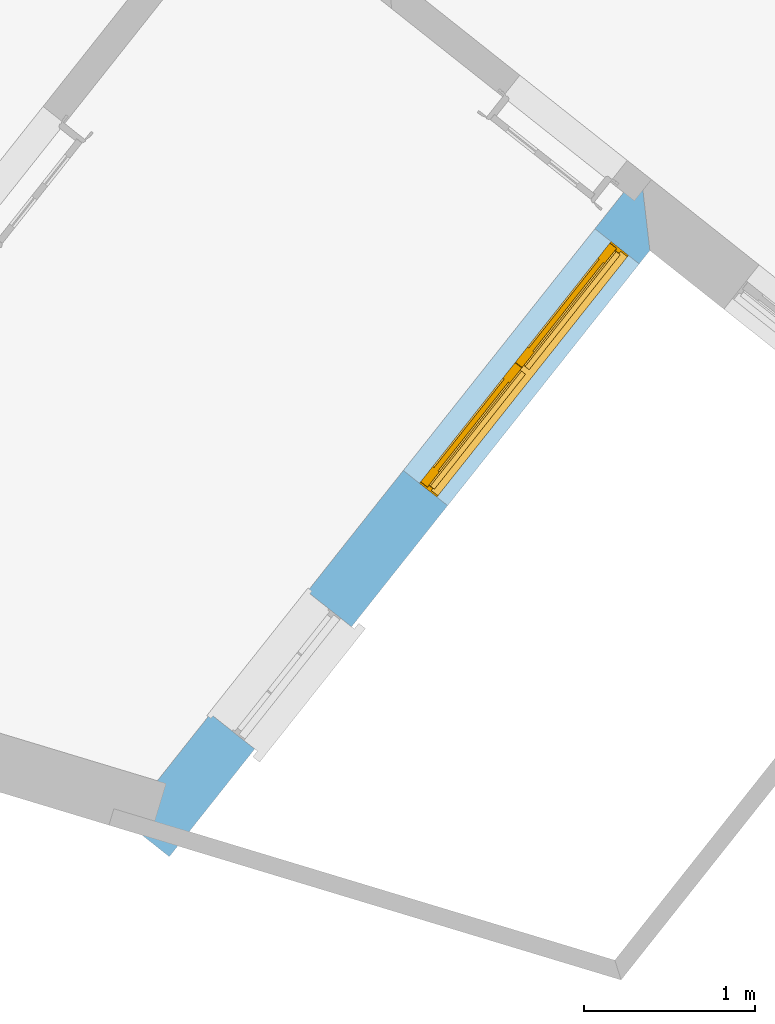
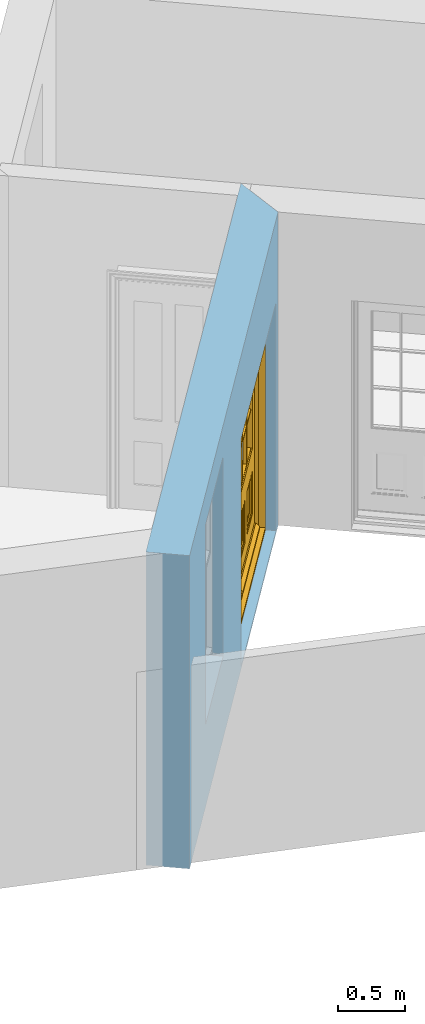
# One storey, part 3 of 8: 1 door, 2 openings, plus 1 element that does not belong to this part.
"""IFC4 building model written with IfcOpenShell, lengths in metres."""

from ifc_helpers import new_model, si_unit, frame, origin, origin_with_axes, place, context, subcontext, project, spatial, polyline, outline, extrude, faceted_brep, source, transform, mapped, material, layer, layer_set, layer_usage, type_object, type_shapes, element, fill, save


model = new_model("IFC4")

# Units and contexts
model_context = context("Model", 3, world=origin_with_axes())
body_context = subcontext(model_context, "Body", "Model", "MODEL_VIEW")
ifc_project = project(units=[si_unit("PLANEANGLEUNIT", "RADIAN"), si_unit("MASSUNIT", "GRAM", prefix="KILO"), si_unit("FORCEUNIT", "NEWTON", prefix="KILO"), si_unit("LENGTHUNIT", "METRE"), si_unit("AREAUNIT", "SQUARE_METRE"), si_unit("VOLUMEUNIT", "CUBIC_METRE")], contexts=[model_context, model_context])

# Sites, building, storey
site_1_placement = place(None, origin_with_axes())
site_1 = spatial("IfcSite", under=ifc_project, at=site_1_placement, Name="Tamar")
site_2_placement = place(site_1_placement, origin_with_axes())
site_2 = spatial("IfcSite", under=site_1, at=site_2_placement, Name="Site plot-5", CompositionType="ELEMENT")
building_placement = place(None, origin_with_axes())
building = spatial("IfcBuilding", under=site_2, at=building_placement, Name="Building plot-5", CompositionType="ELEMENT")
storey_placement = place(None, frame((0.0, 0.0, 24.0), z_axis=(0.0, 0.0, 1.0), x_axis=(1.0, 0.0, 0.0)))
storey = spatial("IfcBuildingStorey", under=building, at=storey_placement, Name="plot-5 0", CompositionType="ELEMENT", Elevation=24.0)

# Wall, openings, door
ifc_material = material(Name="Masonry")
ifc_layer = layer(ifc_material, 0.33, ventilated=False)
ifc_layer_set = layer_set([ifc_layer], Name="exterior_0.08_0.25")
ifc_layer_usage = layer_usage(ifc_layer_set, "AXIS2", "POSITIVE", -0.25)
wall_type = type_object("IfcWallType", Name="exterior_0.08_0.25", PredefinedType="SOLIDWALL", material=ifc_layer_set)
wall_placement = place(storey_placement, frame((231.403804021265, 270.295503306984, 0.0), z_axis=(0.0, 0.0, 1.0), x_axis=(0.621192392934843, 0.783658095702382, 0.0)))
wall = element("IfcWall", 1, at=wall_placement, inside=storey, type_object=wall_type, material=ifc_layer_usage, Name="exterior", context=body_context, shape_type="SweptSolid", body=[
    extrude(outline(polyline([(-0.249999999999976, 0.0800000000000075), (-0.249999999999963, -0.249999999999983), (4.26473191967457, -0.250000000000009), (4.59473191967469, 0.0799999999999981), (-0.249999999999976, 0.0800000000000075)])), origin_with_axes(), (0.0, 0.0, 1.0), 2.85),
])
opening_1_placement = place(wall_placement, frame((0.552365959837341, 0.0, 0.75)))
element("IfcOpeningElement", 2, at=opening_1_placement, cuts=wall, Name="My Opening", ObjectType="Opening", context=body_context, shape_type="SweptSolid", body=[
    extrude(outline(polyline([(0.0, -0.270000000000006), (0.909999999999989, -0.270000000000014), (0.910000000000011, 1.10000000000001), (2.20934381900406e-14, 1.10000000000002), (0.0, -0.270000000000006)])), origin_with_axes(), (0.0, 0.0, 1.0), 1.82),
])
opening_2_placement = place(wall_placement, frame((2.36473191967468, 0.0, 0.0199999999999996)))
opening_2 = element("IfcOpeningElement", 3, at=opening_2_placement, cuts=wall, Name="My Opening", ObjectType="Opening", context=body_context, shape_type="SweptSolid", body=[
    extrude(outline(polyline([(0.0, -0.269999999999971), (1.79999999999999, -0.269999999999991), (1.80000000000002, 1.10000000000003), (2.22044604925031e-14, 1.10000000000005), (0.0, -0.269999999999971)])), origin_with_axes(), (0.0, 0.0, 1.0), 2.08),
])
door_type = type_object("IfcDoorType", Name="door_panelled_double", OperationType="SINGLE_SWING_LEFT", PredefinedType="NOTDEFINED")
shared_shape = source(origin(), body_context, "Body", "Brep", [
    faceted_brep([(0.545, 0.195, 0.265), (0.745, 0.195, 0.265), (0.745, 0.2, 0.265), (0.545, 0.2, 0.265), (0.745, 0.2, 0.58), (0.545, 0.2, 0.58), (0.545, 0.195, 0.58), (0.515, 0.19, 0.235), (0.775, 0.19, 0.235), (0.745, 0.195, 0.58), (0.515, 0.19, 0.61), (0.515, 0.185, 0.235), (0.775, 0.185, 0.235), (0.775, 0.19, 0.61), (0.515, 0.185, 0.61), (0.785, 0.185, 0.225), (0.505, 0.185, 0.225), (0.775, 0.185, 0.61), (0.505, 0.185, 0.62), (0.785, 0.185, 0.62), (0.505, 0.18, 0.225), (0.785, 0.18, 0.225), (0.505, 0.18, 0.62), (0.785, 0.18, 0.62), (0.883, 0.18, 0.075), (0.898, 0.18, 0.075), (0.405, 0.18, 0.62), (0.405, 0.18, 0.225), (0.027, 0.18, 0.075), (0.785, 0.18, 0.82), (0.125, 0.18, 0.82), (0.405, 0.185, 0.62), (0.405, 0.185, 0.225), (0.898, 0.18, 2.068), (0.027, 0.17, 0.075), (0.883, 0.17, 0.075), (0.125, 0.18, 0.225), (0.012, 0.18, 0.075), (0.785, 0.19, 0.82), (0.125, 0.19, 0.82), (0.125, 0.18, 0.62), (0.125, 0.185, 0.62), (0.395, 0.185, 0.61), (0.395, 0.185, 0.235), (0.125, 0.185, 0.225), (0.785, 0.18, 1.895), (0.027, 0.14, 0.045), (0.883, 0.14, 0.045), (0.558333, 0.19, 0.83), (0.351667, 0.19, 0.83), (0.125, 0.18, 1.895), (0.125, 0.19, 1.895), (0.785, 0.19, 1.895), (0.012, 0.18, 2.068), (0.135, 0.185, 0.61), (0.395, 0.19, 0.61), (0.395, 0.19, 0.235), (0.135, 0.185, 0.235), (0.027, 0.14, 0.027), (0.883, 0.14, 0.027), (0.568333, 0.19, 0.83), (0.558333, 0.22, 0.83), (0.351667, 0.22, 0.83), (0.341667, 0.19, 0.83), (0.135, 0.19, 1.185), (0.135, 0.19, 1.53), (0.775, 0.19, 1.53), (0.775, 0.19, 1.185), (0.135, 0.19, 0.61), (0.365, 0.195, 0.58), (0.365, 0.195, 0.265), (0.135, 0.19, 0.235), (0.568333, 0.19, 1.175), (0.558333, 0.19, 1.175), (0.775, 0.19, 0.83), (0.558333, 0.22, 1.175), (0.785, 0.22, 0.82), (0.125, 0.22, 0.82), (0.351667, 0.22, 1.175), (0.351667, 0.19, 1.175), (0.341667, 0.19, 1.175), (0.135, 0.19, 0.83), (0.135, 0.19, 1.175), (0.135, 0.22, 1.185), (0.135, 0.22, 1.53), (0.135, 0.19, 1.54), (0.351667, 0.19, 1.885), (0.558333, 0.19, 1.885), (0.775, 0.22, 1.53), (0.775, 0.22, 1.185), (0.775, 0.19, 1.175), (0.775, 0.19, 1.54), (0.165, 0.195, 0.58), (0.365, 0.2, 0.58), (0.365, 0.2, 0.265), (0.165, 0.195, 0.265), (0.568333, 0.22, 0.83), (0.568333, 0.22, 1.175), (0.568333, 0.19, 1.185), (0.558333, 0.19, 1.185), (0.775, 0.22, 0.83), (0.785, 0.23, 0.82), (0.125, 0.23, 0.82), (0.341667, 0.22, 0.83), (0.341667, 0.22, 1.175), (0.351667, 0.19, 1.185), (0.341667, 0.19, 1.185), (0.135, 0.22, 0.83), (0.341667, 0.22, 1.185), (0.125, 0.22, 1.895), (0.341667, 0.22, 1.53), (0.341667, 0.19, 1.53), (0.135, 0.19, 1.885), (0.341667, 0.19, 1.54), (0.341667, 0.19, 1.885), (0.558333, 0.22, 1.885), (0.351667, 0.22, 1.885), (0.568333, 0.19, 1.885), (0.785, 0.22, 1.895), (0.568333, 0.22, 1.185), (0.568333, 0.19, 1.53), (0.568333, 0.22, 1.53), (0.568333, 0.19, 1.54), (0.775, 0.19, 1.885), (0.165, 0.2, 0.58), (0.165, 0.2, 0.265), (0.775, 0.22, 1.175), (0.558333, 0.19, 1.53), (0.351667, 0.22, 1.185), (0.558333, 0.22, 1.185), (0.505, 0.23, 0.62), (0.405, 0.23, 0.62), (0.125, 0.23, 1.895), (0.785, 0.23, 1.895), (0.351667, 0.19, 1.53), (0.135, 0.22, 1.175), (0.135, 0.22, 1.54), (0.341667, 0.22, 1.54), (0.135, 0.22, 1.885), (0.351667, 0.19, 1.54), (0.558333, 0.22, 1.54), (0.558333, 0.19, 1.54), (0.351667, 0.22, 1.54), (0.775, 0.22, 1.54), (0.568333, 0.22, 1.54), (0.775, 0.22, 1.885), (0.558333, 0.22, 1.53), (0.405, 0.23, 0.225), (0.505, 0.23, 0.225), (0.125, 0.23, 0.62), (0.785, 0.23, 0.62), (0.012, 0.23, 2.068), (0.898, 0.23, 2.068), (0.351667, 0.22, 1.53), (0.341667, 0.22, 1.885), (0.568333, 0.22, 1.885), (0.405, 0.225, 0.225), (0.405, 0.225, 0.62), (0.505, 0.225, 0.62), (0.505, 0.225, 0.225), (0.898, 0.23, 0.027), (0.012, 0.23, 0.027), (0.125, 0.225, 0.62), (0.785, 0.225, 0.62), (0.395, 0.225, 0.235), (0.395, 0.225, 0.61), (0.125, 0.23, 0.225), (0.125, 0.225, 0.225), (0.515, 0.225, 0.61), (0.515, 0.225, 0.235), (0.785, 0.23, 0.225), (0.785, 0.225, 0.225), (0.135, 0.225, 0.61), (0.775, 0.225, 0.61), (0.135, 0.225, 0.235), (0.395, 0.22, 0.235), (0.395, 0.22, 0.61), (0.515, 0.22, 0.61), (0.515, 0.22, 0.235), (0.775, 0.225, 0.235), (0.135, 0.22, 0.61), (0.775, 0.22, 0.61), (0.135, 0.22, 0.235), (0.365, 0.215, 0.265), (0.365, 0.215, 0.58), (0.545, 0.215, 0.58), (0.545, 0.215, 0.265), (0.775, 0.22, 0.235), (0.165, 0.215, 0.58), (0.745, 0.215, 0.58), (0.165, 0.215, 0.265), (0.365, 0.21, 0.58), (0.365, 0.21, 0.265), (0.545, 0.21, 0.58), (0.545, 0.21, 0.265), (0.745, 0.215, 0.265), (0.165, 0.21, 0.58), (0.745, 0.21, 0.58), (0.165, 0.21, 0.265), (0.745, 0.21, 0.265), (1.775, 0.178, 0.025), (0.025, 0.178, 0.025), (0.025, 0.15, 0.025), (1.775, 0.15, 0.025), (1.79, 0.23, 0.025), (0.01, 0.23, 0.025), (1.79, 0.178, 0.025), (1.8, 0.23, 0.0), (0.0, 0.23, 0.0), (0.01, 0.178, 0.025), (1.79, 0.178, 2.07), (1.79, 0.23, 2.07), (1.775, 0.178, 2.055), (1.8, 0.23, 2.08), (0.01, 0.23, 2.07), (0.0, 0.23, 2.08), (0.01, 0.178, 2.07), (0.025, 0.178, 2.055), (0.0, 0.1, 2.08), (1.8, 0.1, 2.08), (0.01, 0.1, 2.07), (1.79, 0.1, 2.07), (0.01, 0.15, 2.07), (1.79, 0.15, 2.07), (0.0, 0.1, 0.0), (1.8, 0.1, 0.0), (0.01, 0.1, 0.025), (1.79, 0.1, 0.025), (0.01, 0.15, 0.025), (0.025, 0.15, 2.055), (1.79, 0.15, 0.025), (1.775, 0.15, 2.055), (0.898, 0.18, 0.027), (0.012, 0.18, 0.027), (0.883, 0.18, 0.027), (0.027, 0.18, 0.027), (1.435, 0.195, 0.265), (1.635, 0.195, 0.265), (1.635, 0.2, 0.265), (1.435, 0.2, 0.265), (1.635, 0.2, 0.58), (1.435, 0.2, 0.58), (1.435, 0.195, 0.58), (1.405, 0.19, 0.235), (1.665, 0.19, 0.235), (1.635, 0.195, 0.58), (1.405, 0.19, 0.61), (1.405, 0.185, 0.235), (1.665, 0.185, 0.235), (1.665, 0.19, 0.61), (1.405, 0.185, 0.61), (1.675, 0.185, 0.225), (1.395, 0.185, 0.225), (1.665, 0.185, 0.61), (1.395, 0.185, 0.62), (1.675, 0.185, 0.62), (1.395, 0.18, 0.225), (1.675, 0.18, 0.225), (1.395, 0.18, 0.62), (1.675, 0.18, 0.62), (1.773, 0.18, 0.075), (1.788, 0.18, 0.075), (1.295, 0.18, 0.62), (1.295, 0.18, 0.225), (0.917, 0.18, 0.075), (1.675, 0.18, 0.82), (1.015, 0.18, 0.82), (1.295, 0.185, 0.62), (1.295, 0.185, 0.225), (1.788, 0.18, 2.068), (0.917, 0.17, 0.075), (1.773, 0.17, 0.075), (1.015, 0.18, 0.225), (0.902, 0.18, 0.075), (1.675, 0.19, 0.82), (1.015, 0.19, 0.82), (1.015, 0.18, 0.62), (1.015, 0.185, 0.62), (1.285, 0.185, 0.61), (1.285, 0.185, 0.235), (1.015, 0.185, 0.225), (1.675, 0.18, 1.895), (0.917, 0.14, 0.045), (1.773, 0.14, 0.045), (1.448333, 0.19, 0.83), (1.241667, 0.19, 0.83), (1.015, 0.18, 1.895), (1.015, 0.19, 1.895), (1.675, 0.19, 1.895), (0.902, 0.18, 2.068), (1.025, 0.185, 0.61), (1.285, 0.19, 0.61), (1.285, 0.19, 0.235), (1.025, 0.185, 0.235), (0.917, 0.14, 0.027), (1.773, 0.14, 0.027), (1.458333, 0.19, 0.83), (1.448333, 0.22, 0.83), (1.241667, 0.22, 0.83), (1.231667, 0.19, 0.83), (1.025, 0.19, 1.185), (1.025, 0.19, 1.53), (1.665, 0.19, 1.53), (1.665, 0.19, 1.185), (1.025, 0.19, 0.61), (1.255, 0.195, 0.58), (1.255, 0.195, 0.265), (1.025, 0.19, 0.235), (1.458333, 0.19, 1.175), (1.448333, 0.19, 1.175), (1.665, 0.19, 0.83), (1.448333, 0.22, 1.175), (1.675, 0.22, 0.82), (1.015, 0.22, 0.82), (1.241667, 0.22, 1.175), (1.241667, 0.19, 1.175), (1.231667, 0.19, 1.175), (1.025, 0.19, 0.83), (1.025, 0.19, 1.175), (1.025, 0.22, 1.185), (1.025, 0.22, 1.53), (1.025, 0.19, 1.54), (1.241667, 0.19, 1.885), (1.448333, 0.19, 1.885), (1.665, 0.22, 1.53), (1.665, 0.22, 1.185), (1.665, 0.19, 1.175), (1.665, 0.19, 1.54), (1.055, 0.195, 0.58), (1.255, 0.2, 0.58), (1.255, 0.2, 0.265), (1.055, 0.195, 0.265), (1.458333, 0.22, 0.83), (1.458333, 0.22, 1.175), (1.458333, 0.19, 1.185), (1.448333, 0.19, 1.185), (1.665, 0.22, 0.83), (1.675, 0.23, 0.82), (1.015, 0.23, 0.82), (1.231667, 0.22, 0.83), (1.231667, 0.22, 1.175), (1.241667, 0.19, 1.185), (1.231667, 0.19, 1.185), (1.025, 0.22, 0.83), (1.231667, 0.22, 1.185), (1.015, 0.22, 1.895), (1.231667, 0.22, 1.53), (1.231667, 0.19, 1.53), (1.025, 0.19, 1.885), (1.231667, 0.19, 1.54), (1.231667, 0.19, 1.885), (1.448333, 0.22, 1.885), (1.241667, 0.22, 1.885), (1.458333, 0.19, 1.885), (1.675, 0.22, 1.895), (1.458333, 0.22, 1.185), (1.458333, 0.19, 1.53), (1.458333, 0.22, 1.53), (1.458333, 0.19, 1.54), (1.665, 0.19, 1.885), (1.055, 0.2, 0.58), (1.055, 0.2, 0.265), (1.665, 0.22, 1.175), (1.448333, 0.19, 1.53), (1.241667, 0.22, 1.185), (1.448333, 0.22, 1.185), (1.395, 0.23, 0.62), (1.295, 0.23, 0.62), (1.015, 0.23, 1.895), (1.675, 0.23, 1.895), (1.241667, 0.19, 1.53), (1.025, 0.22, 1.175), (1.025, 0.22, 1.54), (1.231667, 0.22, 1.54), (1.025, 0.22, 1.885), (1.241667, 0.19, 1.54), (1.448333, 0.22, 1.54), (1.448333, 0.19, 1.54), (1.241667, 0.22, 1.54), (1.665, 0.22, 1.54), (1.458333, 0.22, 1.54), (1.665, 0.22, 1.885), (1.448333, 0.22, 1.53), (1.295, 0.23, 0.225), (1.395, 0.23, 0.225), (1.015, 0.23, 0.62), (1.675, 0.23, 0.62), (0.902, 0.23, 2.068), (1.788, 0.23, 2.068), (1.241667, 0.22, 1.53), (1.231667, 0.22, 1.885), (1.458333, 0.22, 1.885), (1.295, 0.225, 0.225), (1.295, 0.225, 0.62), (1.395, 0.225, 0.62), (1.395, 0.225, 0.225), (1.788, 0.23, 0.027), (0.902, 0.23, 0.027), (1.015, 0.225, 0.62), (1.675, 0.225, 0.62), (1.285, 0.225, 0.235), (1.285, 0.225, 0.61), (1.015, 0.23, 0.225), (1.015, 0.225, 0.225), (1.405, 0.225, 0.61), (1.405, 0.225, 0.235), (1.675, 0.23, 0.225), (1.675, 0.225, 0.225), (1.025, 0.225, 0.61), (1.665, 0.225, 0.61), (1.025, 0.225, 0.235), (1.285, 0.22, 0.235), (1.285, 0.22, 0.61), (1.405, 0.22, 0.61), (1.405, 0.22, 0.235), (1.665, 0.225, 0.235), (1.025, 0.22, 0.61), (1.665, 0.22, 0.61), (1.025, 0.22, 0.235), (1.255, 0.215, 0.265), (1.255, 0.215, 0.58), (1.435, 0.215, 0.58), (1.435, 0.215, 0.265), (1.665, 0.22, 0.235), (1.055, 0.215, 0.58), (1.635, 0.215, 0.58), (1.055, 0.215, 0.265), (1.255, 0.21, 0.58), (1.255, 0.21, 0.265), (1.435, 0.21, 0.58), (1.435, 0.21, 0.265), (1.635, 0.215, 0.265), (1.055, 0.21, 0.58), (1.635, 0.21, 0.58), (1.055, 0.21, 0.265), (1.635, 0.21, 0.265), (1.788, 0.18, 0.027), (0.902, 0.18, 0.027), (1.773, 0.18, 0.027), (0.917, 0.18, 0.027)], [[[0, 1, 2, 3]], [[2, 4, 5, 3]], [[0, 3, 5, 6]], [[1, 0, 7, 8]], [[9, 4, 2, 1]], [[9, 6, 5, 4]], [[0, 6, 10, 7]], [[8, 7, 11, 12]], [[8, 13, 9, 1]], [[13, 10, 6, 9]], [[7, 10, 14, 11]], [[15, 12, 11, 16]], [[12, 17, 13, 8]], [[17, 14, 10, 13]], [[18, 16, 11, 14]], [[15, 19, 17, 12]], [[15, 16, 20, 21]], [[14, 17, 19, 18]], [[16, 18, 22, 20]], [[21, 23, 19, 15]], [[24, 25, 21, 20]], [[23, 22, 18, 19]], [[20, 22, 26, 27]], [[23, 21, 25]], [[28, 24, 20, 27]], [[22, 23, 29]], [[29, 30, 26, 22]], [[27, 26, 31, 32]], [[23, 25, 33, 29]], [[34, 35, 24, 28]], [[28, 27, 36, 37]], [[38, 39, 30, 29]], [[26, 30, 40]], [[26, 40, 41, 31]], [[42, 43, 32, 31]], [[32, 44, 36, 27]], [[33, 45, 29]], [[46, 47, 35, 34]], [[36, 40, 37]], [[39, 38, 48, 49]], [[50, 30, 39, 51]], [[29, 45, 52, 38]], [[53, 37, 40, 30]], [[44, 41, 40, 36]], [[31, 41, 54, 42]], [[43, 42, 55, 56]], [[57, 44, 32, 43]], [[50, 45, 33, 53]], [[47, 46, 58, 59]], [[60, 48, 38]], [[49, 48, 61, 62]], [[49, 63, 39]], [[50, 53, 30]], [[51, 39, 64, 65]], [[45, 50, 51, 52]], [[66, 67, 38, 52]], [[57, 54, 41, 44]], [[42, 54, 68, 55]], [[56, 55, 69, 70]], [[56, 71, 57, 43]], [[60, 72, 73, 48]], [[60, 38, 74]], [[48, 73, 75, 61]], [[76, 77, 62, 61]], [[62, 78, 79, 49]], [[49, 79, 80, 63]], [[63, 81, 39]], [[82, 64, 39]], [[65, 64, 83, 84]], [[85, 51, 65]], [[52, 51, 86, 87]], [[88, 89, 67, 66]], [[90, 38, 67]], [[91, 66, 52]], [[71, 68, 54, 57]], [[55, 68, 92, 69]], [[69, 93, 94, 70]], [[70, 95, 71, 56]], [[96, 97, 72, 60]], [[73, 72, 98, 99]], [[74, 38, 90]], [[100, 96, 60, 74]], [[75, 73, 79, 78]], [[61, 75, 97, 96]], [[101, 102, 77, 76]], [[77, 103, 62]], [[96, 76, 61]], [[103, 104, 78, 62]], [[80, 79, 105, 106]], [[63, 80, 104, 103]], [[81, 63, 103, 107]], [[81, 82, 39]], [[106, 64, 82, 80]], [[106, 108, 83, 64]], [[84, 83, 77, 109]], [[110, 111, 65, 84]], [[112, 51, 85]], [[113, 85, 65, 111]], [[114, 86, 51]], [[115, 87, 86, 116]], [[117, 52, 87]], [[118, 76, 89, 88]], [[119, 98, 67, 89]], [[120, 121, 88, 66]], [[67, 98, 72, 90]], [[91, 122, 120, 66]], [[91, 52, 123]], [[95, 92, 68, 71]], [[69, 92, 124, 93]], [[94, 93, 124, 125]], [[94, 125, 95, 70]], [[72, 97, 126, 90]], [[127, 99, 98, 120]], [[99, 105, 79, 73]], [[74, 90, 126, 100]], [[96, 100, 76]], [[128, 129, 75, 78]], [[97, 75, 129, 119]], [[130, 131, 102, 101]], [[109, 77, 102, 132]], [[133, 101, 76, 118]], [[77, 107, 103]], [[78, 104, 108, 128]], [[111, 106, 105, 134]], [[104, 80, 82, 135]], [[107, 135, 82, 81]], [[110, 108, 106, 111]], [[104, 135, 83, 108]], [[83, 135, 77]], [[136, 84, 109]], [[110, 84, 136, 137]], [[114, 51, 112]], [[85, 136, 138, 112]], [[113, 137, 136, 85]], [[111, 134, 139, 113]], [[86, 114, 113, 139]], [[140, 141, 87, 115]], [[139, 142, 116, 86]], [[109, 118, 115, 116]], [[117, 123, 52]], [[117, 87, 141, 122]], [[126, 89, 76]], [[143, 118, 88]], [[120, 98, 119, 121]], [[119, 89, 126, 97]], [[144, 143, 88, 121]], [[144, 122, 91, 143]], [[127, 120, 122, 141]], [[143, 91, 123, 145]], [[124, 92, 95, 125]], [[146, 129, 99, 127]], [[99, 129, 128, 105]], [[100, 126, 76]], [[121, 119, 129, 146]], [[147, 131, 130, 148]], [[131, 149, 102]], [[130, 101, 150]], [[102, 151, 132]], [[118, 109, 132, 133]], [[101, 133, 152]], [[107, 77, 135]], [[153, 128, 108, 110]], [[134, 105, 128, 153]], [[109, 138, 136]], [[153, 110, 137, 142]], [[154, 114, 112, 138]], [[137, 113, 114, 154]], [[141, 139, 134, 127]], [[141, 140, 142, 139]], [[144, 140, 115, 155]], [[142, 137, 154, 116]], [[155, 115, 118]], [[116, 154, 109]], [[117, 155, 145, 123]], [[122, 144, 155, 117]], [[143, 145, 118]], [[121, 146, 140, 144]], [[146, 127, 134, 153]], [[156, 157, 131, 147]], [[148, 130, 158, 159]], [[148, 160, 161, 147]], [[157, 162, 149, 131]], [[161, 151, 102, 149]], [[101, 152, 160, 150]], [[163, 158, 130, 150]], [[151, 152, 133, 132]], [[154, 138, 109]], [[142, 140, 146, 153]], [[145, 155, 118]], [[157, 156, 164, 165]], [[147, 166, 167, 156]], [[168, 169, 159, 158]], [[170, 148, 159, 171]], [[148, 170, 160]], [[166, 147, 161]], [[172, 162, 157, 165]], [[166, 149, 162, 167]], [[166, 161, 149]], [[150, 160, 170]], [[163, 173, 168, 158]], [[171, 163, 150, 170]], [[174, 164, 156, 167]], [[175, 176, 165, 164]], [[169, 168, 177, 178]], [[171, 159, 169, 179]], [[167, 162, 172, 174]], [[176, 180, 172, 165]], [[179, 173, 163, 171]], [[181, 177, 168, 173]], [[164, 174, 182, 175]], [[183, 184, 176, 175]], [[178, 177, 185, 186]], [[179, 169, 178, 187]], [[174, 172, 180, 182]], [[184, 188, 180, 176]], [[187, 181, 173, 179]], [[189, 185, 177, 181]], [[175, 182, 190, 183]], [[191, 184, 183, 192]], [[185, 193, 194, 186]], [[187, 178, 186, 195]], [[182, 180, 188, 190]], [[191, 196, 188, 184]], [[195, 189, 181, 187]], [[197, 193, 185, 189]], [[183, 190, 198, 192]], [[198, 196, 191, 192]], [[194, 193, 197, 199]], [[195, 186, 194, 199]], [[188, 196, 198, 190]], [[197, 189, 195, 199]], [[200, 201, 202, 203]], [[201, 200, 204, 205]], [[206, 204, 200]], [[204, 207, 208, 205]], [[209, 201, 205]], [[210, 211, 204, 206]], [[206, 200, 212, 210]], [[211, 213, 207, 204]], [[214, 205, 208, 215]], [[216, 217, 201, 209]], [[205, 214, 216, 209]], [[216, 214, 211, 210]], [[210, 212, 217, 216]], [[214, 215, 213, 211]], [[218, 219, 213, 215]], [[219, 218, 220, 221]], [[221, 220, 222, 223]], [[215, 208, 224, 218]], [[225, 224, 208, 207]], [[224, 226, 220, 218]], [[224, 225, 227, 226]], [[219, 225, 207, 213]], [[228, 222, 220, 226]], [[219, 221, 227, 225]], [[226, 227, 203, 202]], [[202, 229, 222, 228]], [[228, 226, 202]], [[227, 221, 223, 230]], [[230, 203, 227]], [[217, 229, 202, 201]], [[231, 223, 222, 229]], [[230, 223, 231, 203]], [[231, 229, 217, 212]], [[212, 200, 203, 231]], [[33, 152, 151, 53]], [[25, 160, 152, 33]], [[161, 37, 53, 151]], [[232, 160, 25]], [[161, 233, 37]], [[160, 232, 234]], [[24, 234, 232, 25]], [[233, 161, 235]], [[37, 233, 235, 28]], [[161, 160, 234, 235]], [[35, 47, 234, 24]], [[28, 235, 46, 34]], [[58, 235, 234, 59]], [[59, 234, 47]], [[58, 46, 235]], [[236, 237, 238, 239]], [[238, 240, 241, 239]], [[236, 239, 241, 242]], [[237, 236, 243, 244]], [[245, 240, 238, 237]], [[245, 242, 241, 240]], [[236, 242, 246, 243]], [[244, 243, 247, 248]], [[244, 249, 245, 237]], [[249, 246, 242, 245]], [[243, 246, 250, 247]], [[251, 248, 247, 252]], [[248, 253, 249, 244]], [[253, 250, 246, 249]], [[254, 252, 247, 250]], [[251, 255, 253, 248]], [[251, 252, 256, 257]], [[250, 253, 255, 254]], [[252, 254, 258, 256]], [[257, 259, 255, 251]], [[260, 261, 257, 256]], [[259, 258, 254, 255]], [[256, 258, 262, 263]], [[259, 257, 261]], [[264, 260, 256, 263]], [[258, 259, 265]], [[265, 266, 262, 258]], [[263, 262, 267, 268]], [[259, 261, 269, 265]], [[270, 271, 260, 264]], [[264, 263, 272, 273]], [[274, 275, 266, 265]], [[262, 266, 276]], [[262, 276, 277, 267]], [[278, 279, 268, 267]], [[268, 280, 272, 263]], [[269, 281, 265]], [[282, 283, 271, 270]], [[272, 276, 273]], [[275, 274, 284, 285]], [[286, 266, 275, 287]], [[265, 281, 288, 274]], [[289, 273, 276, 266]], [[280, 277, 276, 272]], [[267, 277, 290, 278]], [[279, 278, 291, 292]], [[293, 280, 268, 279]], [[286, 281, 269, 289]], [[283, 282, 294, 295]], [[296, 284, 274]], [[285, 284, 297, 298]], [[285, 299, 275]], [[286, 289, 266]], [[287, 275, 300, 301]], [[281, 286, 287, 288]], [[302, 303, 274, 288]], [[293, 290, 277, 280]], [[278, 290, 304, 291]], [[292, 291, 305, 306]], [[292, 307, 293, 279]], [[296, 308, 309, 284]], [[296, 274, 310]], [[284, 309, 311, 297]], [[312, 313, 298, 297]], [[298, 314, 315, 285]], [[285, 315, 316, 299]], [[299, 317, 275]], [[318, 300, 275]], [[301, 300, 319, 320]], [[321, 287, 301]], [[288, 287, 322, 323]], [[324, 325, 303, 302]], [[326, 274, 303]], [[327, 302, 288]], [[307, 304, 290, 293]], [[291, 304, 328, 305]], [[305, 329, 330, 306]], [[306, 331, 307, 292]], [[332, 333, 308, 296]], [[309, 308, 334, 335]], [[310, 274, 326]], [[336, 332, 296, 310]], [[311, 309, 315, 314]], [[297, 311, 333, 332]], [[337, 338, 313, 312]], [[313, 339, 298]], [[332, 312, 297]], [[339, 340, 314, 298]], [[316, 315, 341, 342]], [[299, 316, 340, 339]], [[317, 299, 339, 343]], [[317, 318, 275]], [[342, 300, 318, 316]], [[342, 344, 319, 300]], [[320, 319, 313, 345]], [[346, 347, 301, 320]], [[348, 287, 321]], [[349, 321, 301, 347]], [[350, 322, 287]], [[351, 323, 322, 352]], [[353, 288, 323]], [[354, 312, 325, 324]], [[355, 334, 303, 325]], [[356, 357, 324, 302]], [[303, 334, 308, 326]], [[327, 358, 356, 302]], [[327, 288, 359]], [[331, 328, 304, 307]], [[305, 328, 360, 329]], [[330, 329, 360, 361]], [[330, 361, 331, 306]], [[308, 333, 362, 326]], [[363, 335, 334, 356]], [[335, 341, 315, 309]], [[310, 326, 362, 336]], [[332, 336, 312]], [[364, 365, 311, 314]], [[333, 311, 365, 355]], [[366, 367, 338, 337]], [[345, 313, 338, 368]], [[369, 337, 312, 354]], [[313, 343, 339]], [[314, 340, 344, 364]], [[347, 342, 341, 370]], [[340, 316, 318, 371]], [[343, 371, 318, 317]], [[346, 344, 342, 347]], [[340, 371, 319, 344]], [[319, 371, 313]], [[372, 320, 345]], [[346, 320, 372, 373]], [[350, 287, 348]], [[321, 372, 374, 348]], [[349, 373, 372, 321]], [[347, 370, 375, 349]], [[322, 350, 349, 375]], [[376, 377, 323, 351]], [[375, 378, 352, 322]], [[345, 354, 351, 352]], [[353, 359, 288]], [[353, 323, 377, 358]], [[362, 325, 312]], [[379, 354, 324]], [[356, 334, 355, 357]], [[355, 325, 362, 333]], [[380, 379, 324, 357]], [[380, 358, 327, 379]], [[363, 356, 358, 377]], [[379, 327, 359, 381]], [[360, 328, 331, 361]], [[382, 365, 335, 363]], [[335, 365, 364, 341]], [[336, 362, 312]], [[357, 355, 365, 382]], [[383, 367, 366, 384]], [[367, 385, 338]], [[366, 337, 386]], [[338, 387, 368]], [[354, 345, 368, 369]], [[337, 369, 388]], [[343, 313, 371]], [[389, 364, 344, 346]], [[370, 341, 364, 389]], [[345, 374, 372]], [[389, 346, 373, 378]], [[390, 350, 348, 374]], [[373, 349, 350, 390]], [[377, 375, 370, 363]], [[377, 376, 378, 375]], [[380, 376, 351, 391]], [[378, 373, 390, 352]], [[391, 351, 354]], [[352, 390, 345]], [[353, 391, 381, 359]], [[358, 380, 391, 353]], [[379, 381, 354]], [[357, 382, 376, 380]], [[382, 363, 370, 389]], [[392, 393, 367, 383]], [[384, 366, 394, 395]], [[384, 396, 397, 383]], [[393, 398, 385, 367]], [[397, 387, 338, 385]], [[337, 388, 396, 386]], [[399, 394, 366, 386]], [[387, 388, 369, 368]], [[390, 374, 345]], [[378, 376, 382, 389]], [[381, 391, 354]], [[393, 392, 400, 401]], [[383, 402, 403, 392]], [[404, 405, 395, 394]], [[406, 384, 395, 407]], [[384, 406, 396]], [[402, 383, 397]], [[408, 398, 393, 401]], [[402, 385, 398, 403]], [[402, 397, 385]], [[386, 396, 406]], [[399, 409, 404, 394]], [[407, 399, 386, 406]], [[410, 400, 392, 403]], [[411, 412, 401, 400]], [[405, 404, 413, 414]], [[407, 395, 405, 415]], [[403, 398, 408, 410]], [[412, 416, 408, 401]], [[415, 409, 399, 407]], [[417, 413, 404, 409]], [[400, 410, 418, 411]], [[419, 420, 412, 411]], [[414, 413, 421, 422]], [[415, 405, 414, 423]], [[410, 408, 416, 418]], [[420, 424, 416, 412]], [[423, 417, 409, 415]], [[425, 421, 413, 417]], [[411, 418, 426, 419]], [[427, 420, 419, 428]], [[421, 429, 430, 422]], [[423, 414, 422, 431]], [[418, 416, 424, 426]], [[427, 432, 424, 420]], [[431, 425, 417, 423]], [[433, 429, 421, 425]], [[419, 426, 434, 428]], [[434, 432, 427, 428]], [[430, 429, 433, 435]], [[431, 422, 430, 435]], [[424, 432, 434, 426]], [[433, 425, 431, 435]], [[269, 388, 387, 289]], [[261, 396, 388, 269]], [[397, 273, 289, 387]], [[436, 396, 261]], [[397, 437, 273]], [[396, 436, 438]], [[260, 438, 436, 261]], [[437, 397, 439]], [[273, 437, 439, 264]], [[397, 396, 438, 439]], [[271, 283, 438, 260]], [[264, 439, 282, 270]], [[294, 439, 438, 295]], [[295, 438, 283]], [[294, 282, 439]]]),
])
type_shapes(door_type, [shared_shape])
door_placement = place(storey_placement, frame((233.084345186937, 271.980922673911, 0.0199999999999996), z_axis=(0.0, 0.0, 1.0), x_axis=(1.11814630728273, 1.41058457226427, 0.0)))
door = element("IfcDoor", 4, at=door_placement, inside=storey, type_object=door_type, Name="living outside door", OverallHeight=2.08, OverallWidth=1.8, context=body_context, shape_type="MappedRepresentation", body=[
    mapped(shared_shape, transform((0.0, 0.0, 0.0), scale=1.0)),
])
fill(opening_2, door)

save(model, "model.ifc")
